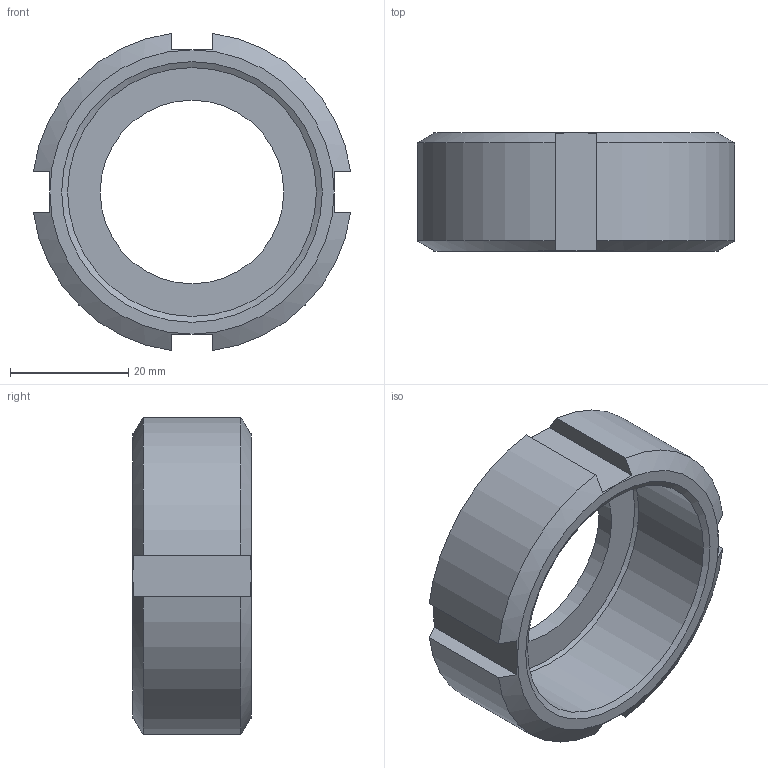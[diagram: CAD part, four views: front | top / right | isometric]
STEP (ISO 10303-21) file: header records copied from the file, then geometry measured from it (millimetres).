
FILE_DESCRIPTION((''),'2;1');
FILE_NAME('K:\2013 konstrukce\2xxxx\20030-Matice převlečná\2003-020 Převlečná matice.stp','2018-08-16T14:42:35',('konstrukce'),(''),'Autodesk Inventor 2010','Autodesk Inventor 2010','');
FILE_SCHEMA(('AUTOMOTIVE_DESIGN { 1 0 10303 214 1 1 1 1 }'));
Length unit declared in the file: millimetre
Products named in the file (1): 2003-020 Převlečná matice
Bounding box: 53.54 x 20 x 53.54 mm (x, y, z)
Volume: 17541.2 mm3; surface area: 9004.8 mm2
Topology: 1 solids, 1 shells, 32 faces, 75 edges, 47 vertices
Faces by surface type: plane 16, cone 10, cylinder 6
Full cylindrical faces by diameter (mm): 31 x1, 42 x1
Entity records: 888 total; most frequent: CARTESIAN_POINT 215, ORIENTED_EDGE 142, DIRECTION 128, EDGE_CURVE 71, AXIS2_PLACEMENT_3D 56, VERTEX_POINT 47, EDGE_LOOP 40, FACE_OUTER_BOUND 32
